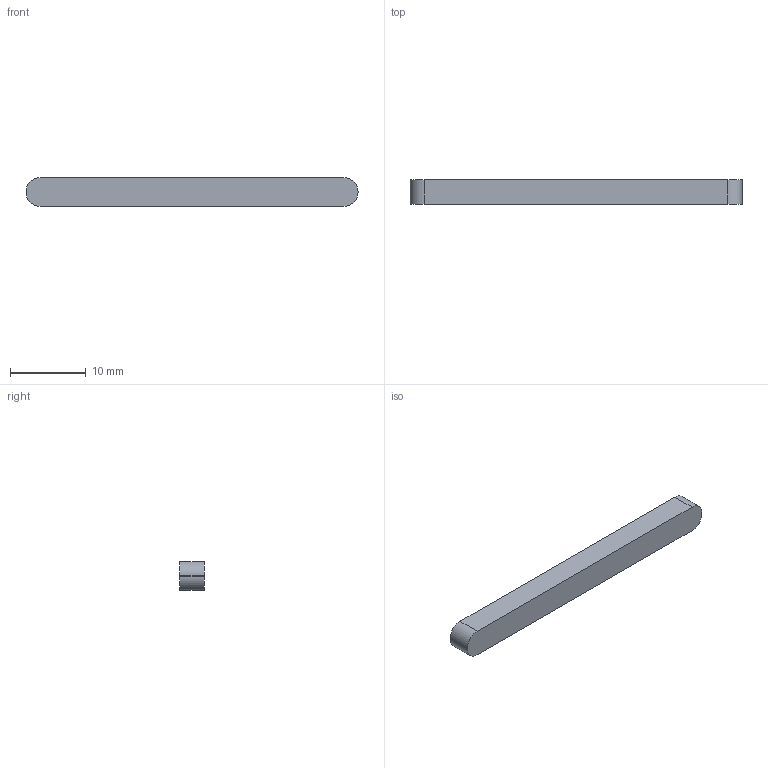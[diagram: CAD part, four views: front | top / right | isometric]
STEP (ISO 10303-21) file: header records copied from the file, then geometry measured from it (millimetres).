
FILE_DESCRIPTION(('Open CASCADE Model'),'2;1');
FILE_NAME('Open CASCADE Shape Model','2026-11-01T16:28:02',('Author'),( 'Open CASCADE'),'Open CASCADE STEP processor 8.0','build123d', 'Unknown');
FILE_SCHEMA(('AUTOMOTIVE_DESIGN { 1 0 10303 214 1 1 1 1 }'));
Length unit declared in the file: millimetre
Products named in the file (1): COMPOUND
Bounding box: 43.8 x 3.2 x 3.8 mm (x, y, z)
Volume: 523.2 mm3; surface area: 621.5 mm2
Topology: 1 solids, 1 shells, 10 faces, 24 edges, 16 vertices
Faces by surface type: plane 6, cylinder 4
Entity records: 618 total; most frequent: DIRECTION 102, CARTESIAN_POINT 99, LINE 56, VECTOR 56, ORIENTED_EDGE 48, PCURVE 48, DEFINITIONAL_REPRESENTATION 48, EDGE_CURVE 24
